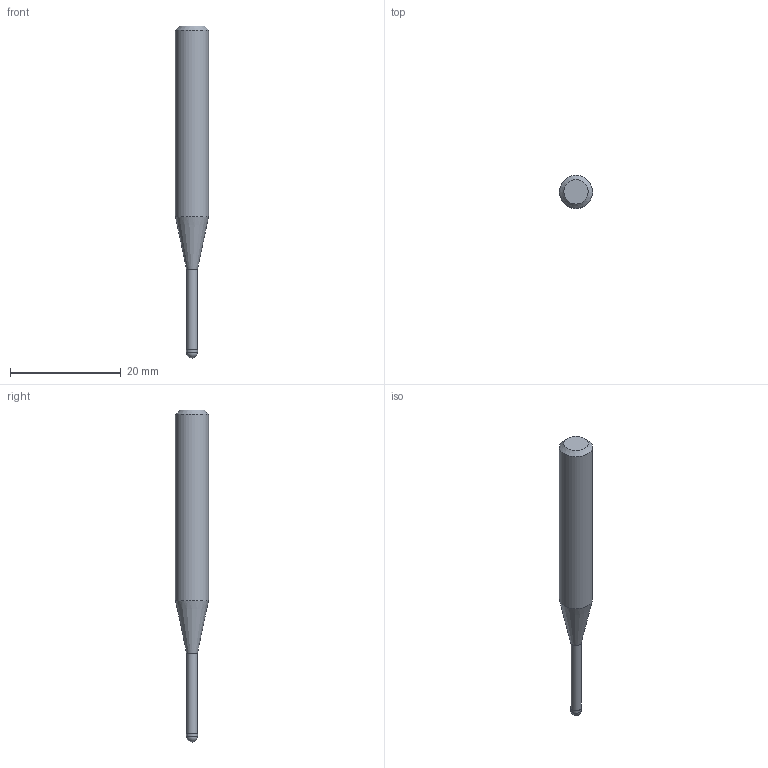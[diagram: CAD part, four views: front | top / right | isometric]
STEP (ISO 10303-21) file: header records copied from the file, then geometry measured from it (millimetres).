
FILE_DESCRIPTION((''),'2;1');
FILE_NAME('C:\Users\nsx150\AppData\Local\Temp\Mastercam 2021\ARV7HD45SN\TEMP.step','2023-06-13T16:37:40',(''),(''),'STEP Write','Mastercam 2021 ... CNC Software, Inc.','');
FILE_SCHEMA(('AUTOMOTIVE_DESIGN'));
Length unit declared in the file: millimetre
Products named in the file (1): None
Bounding box: 6 x 6 x 60 mm (x, y, z)
Volume: 1143.6 mm3; surface area: 893.6 mm2
Topology: 2 solids, 2 shells, 9 faces, 14 edges, 8 vertices
Faces by surface type: plane 3, cylinder 3, cone 2, sphere 1
Full cylindrical faces by diameter (mm): 1.94 x1, 2 x1, 6 x1
Entity records: 211 total; most frequent: DIRECTION 36, CARTESIAN_POINT 25, AXIS2_PLACEMENT_3D 18, ORIENTED_EDGE 14, EDGE_LOOP 14, STYLED_ITEM 12, ADVANCED_FACE 9, FACE_BOUND 8
